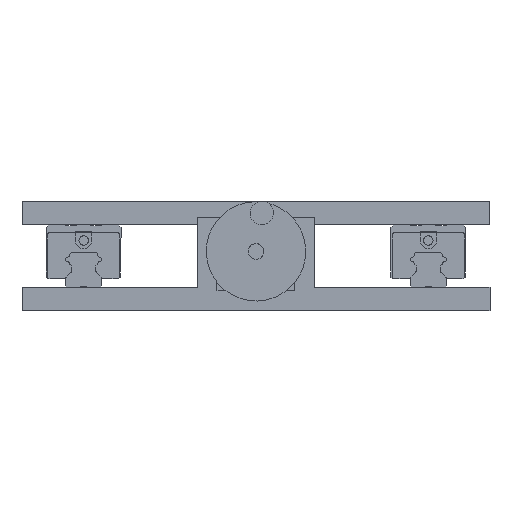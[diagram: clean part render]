
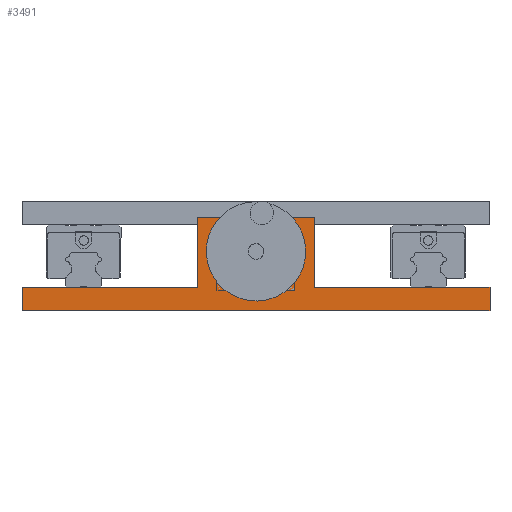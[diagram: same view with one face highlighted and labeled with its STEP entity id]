
A CAD part, front view. The second image highlights one B-rep face of the part: STEP entity #3491.
In plain terms, the highlighted planar face has unit normal (0, -1, 0).
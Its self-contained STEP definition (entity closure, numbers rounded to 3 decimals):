
#246 = CARTESIAN_POINT ( 'NONE',  ( -37.5, -216.5, 60. ) ) ;
#1069 = CARTESIAN_POINT ( 'NONE',  ( 150., -216.5, 15. ) ) ;
#3491 = ADVANCED_FACE ( 'NONE', ( #17109, #36460 ), #60678, .F. ) ;
#4008 = LINE ( 'NONE', #51027, #35980 ) ;
#4264 = ORIENTED_EDGE ( 'NONE', *, *, #21846, .T. ) ;
#4286 = CARTESIAN_POINT ( 'NONE',  ( -37.5, -216.5, 15. ) ) ;
#5604 = LINE ( 'NONE', #41525, #14102 ) ;
#9121 = ORIENTED_EDGE ( 'NONE', *, *, #10790, .F. ) ;
#9523 = CARTESIAN_POINT ( 'NONE',  ( 37.5, -216.5, 60. ) ) ;
#9644 = ORIENTED_EDGE ( 'NONE', *, *, #12556, .T. ) ;
#10790 = EDGE_CURVE ( 'NONE', #67496, #39740, #19558, .T. ) ;
#11771 = CARTESIAN_POINT ( 'NONE',  ( -150., -216.5, 0. ) ) ;
#12147 = DIRECTION ( 'NONE',  ( 0., 0., -1. ) ) ;
#12480 = ORIENTED_EDGE ( 'NONE', *, *, #62061, .F. ) ;
#12556 = EDGE_CURVE ( 'NONE', #28158, #58298, #5604, .T. ) ;
#14102 = VECTOR ( 'NONE', #52317, 1000. ) ;
#15028 = VERTEX_POINT ( 'NONE', #23058 ) ;
#15551 = AXIS2_PLACEMENT_3D ( 'NONE', #66927, #29278, #67385 ) ;
#15586 = CIRCLE ( 'NONE', #25848, 5. ) ;
#16590 = DIRECTION ( 'NONE',  ( 0., 0., 1. ) ) ;
#17109 = FACE_BOUND ( 'NONE', #54471, .T. ) ;
#17388 = ORIENTED_EDGE ( 'NONE', *, *, #24498, .F. ) ;
#19034 = CARTESIAN_POINT ( 'NONE',  ( -150., -216.5, 15. ) ) ;
#19558 = LINE ( 'NONE', #39671, #38928 ) ;
#21846 = EDGE_CURVE ( 'NONE', #39498, #61584, #28350, .T. ) ;
#22579 = VECTOR ( 'NONE', #12147, 1000. ) ;
#23058 = CARTESIAN_POINT ( 'NONE',  ( 150., -216.5, 0. ) ) ;
#24498 = EDGE_CURVE ( 'NONE', #39803, #66917, #15586, .T. ) ;
#25848 = AXIS2_PLACEMENT_3D ( 'NONE', #54698, #26668, #16590 ) ;
#26263 = EDGE_CURVE ( 'NONE', #39740, #15028, #68897, .T. ) ;
#26668 = DIRECTION ( 'NONE',  ( 0., -1., 0. ) ) ;
#26788 = CIRCLE ( 'NONE', #15551, 5. ) ;
#27902 = EDGE_CURVE ( 'NONE', #64915, #67496, #42261, .T. ) ;
#27962 = CARTESIAN_POINT ( 'NONE',  ( 37.5, -216.5, 15. ) ) ;
#28158 = VERTEX_POINT ( 'NONE', #35078 ) ;
#28350 = LINE ( 'NONE', #64898, #37569 ) ;
#28691 = CARTESIAN_POINT ( 'NONE',  ( -150., -216.5, 15. ) ) ;
#29278 = DIRECTION ( 'NONE',  ( 0., -1., 0. ) ) ;
#31330 = VECTOR ( 'NONE', #31610, 1000. ) ;
#31610 = DIRECTION ( 'NONE',  ( 0., 0., -1. ) ) ;
#33506 = CARTESIAN_POINT ( 'NONE',  ( 0., -216.5, 33. ) ) ;
#33750 = ORIENTED_EDGE ( 'NONE', *, *, #27902, .F. ) ;
#35078 = CARTESIAN_POINT ( 'NONE',  ( -37.5, -216.5, 60. ) ) ;
#35980 = VECTOR ( 'NONE', #39718, 1000. ) ;
#36460 = FACE_OUTER_BOUND ( 'NONE', #61143, .T. ) ;
#37569 = VECTOR ( 'NONE', #43710, 1000. ) ;
#38395 = ORIENTED_EDGE ( 'NONE', *, *, #55173, .F. ) ;
#38928 = VECTOR ( 'NONE', #55659, 1000. ) ;
#39498 = VERTEX_POINT ( 'NONE', #19034 ) ;
#39671 = CARTESIAN_POINT ( 'NONE',  ( -150., -216.5, 15. ) ) ;
#39718 = DIRECTION ( 'NONE',  ( 1., 0., 0. ) ) ;
#39740 = VERTEX_POINT ( 'NONE', #69115 ) ;
#39803 = VERTEX_POINT ( 'NONE', #69349 ) ;
#41010 = LINE ( 'NONE', #246, #68720 ) ;
#41525 = CARTESIAN_POINT ( 'NONE',  ( -37.5, -216.5, 60. ) ) ;
#41790 = LINE ( 'NONE', #11771, #60346 ) ;
#42261 = LINE ( 'NONE', #9523, #31330 ) ;
#43261 = DIRECTION ( 'NONE',  ( 1., 0., 0. ) ) ;
#43500 = DIRECTION ( 'NONE',  ( 1., 0., 0. ) ) ;
#43710 = DIRECTION ( 'NONE',  ( 0., 0., -1. ) ) ;
#44698 = DIRECTION ( 'NONE',  ( 0., 1., 0. ) ) ;
#47980 = CARTESIAN_POINT ( 'NONE',  ( 37.5, -216.5, 60. ) ) ;
#50138 = DIRECTION ( 'NONE',  ( 0., 0., 1. ) ) ;
#51027 = CARTESIAN_POINT ( 'NONE',  ( -150., -216.5, 15. ) ) ;
#51332 = ORIENTED_EDGE ( 'NONE', *, *, #26263, .F. ) ;
#51365 = EDGE_CURVE ( 'NONE', #39498, #58298, #4008, .T. ) ;
#51708 = AXIS2_PLACEMENT_3D ( 'NONE', #28691, #44698, #50138 ) ;
#52317 = DIRECTION ( 'NONE',  ( 0., 0., -1. ) ) ;
#54471 = EDGE_LOOP ( 'NONE', ( #17388, #38395 ) ) ;
#54698 = CARTESIAN_POINT ( 'NONE',  ( 0., -216.5, 38. ) ) ;
#55173 = EDGE_CURVE ( 'NONE', #66917, #39803, #26788, .T. ) ;
#55659 = DIRECTION ( 'NONE',  ( 1., 0., 0. ) ) ;
#57547 = ORIENTED_EDGE ( 'NONE', *, *, #51365, .F. ) ;
#58298 = VERTEX_POINT ( 'NONE', #4286 ) ;
#60346 = VECTOR ( 'NONE', #43500, 1000. ) ;
#60678 = PLANE ( 'NONE',  #51708 ) ;
#61143 = EDGE_LOOP ( 'NONE', ( #69545, #51332, #9121, #33750, #12480, #9644, #57547, #4264 ) ) ;
#61209 = CARTESIAN_POINT ( 'NONE',  ( -150., -216.5, 0. ) ) ;
#61584 = VERTEX_POINT ( 'NONE', #61209 ) ;
#62055 = EDGE_CURVE ( 'NONE', #61584, #15028, #41790, .T. ) ;
#62061 = EDGE_CURVE ( 'NONE', #28158, #64915, #41010, .T. ) ;
#64898 = CARTESIAN_POINT ( 'NONE',  ( -150., -216.5, 15. ) ) ;
#64915 = VERTEX_POINT ( 'NONE', #47980 ) ;
#66917 = VERTEX_POINT ( 'NONE', #33506 ) ;
#66927 = CARTESIAN_POINT ( 'NONE',  ( 0., -216.5, 38. ) ) ;
#67385 = DIRECTION ( 'NONE',  ( 0., 0., 1. ) ) ;
#67496 = VERTEX_POINT ( 'NONE', #27962 ) ;
#68720 = VECTOR ( 'NONE', #43261, 1000. ) ;
#68897 = LINE ( 'NONE', #1069, #22579 ) ;
#69115 = CARTESIAN_POINT ( 'NONE',  ( 150., -216.5, 15. ) ) ;
#69349 = CARTESIAN_POINT ( 'NONE',  ( 0., -216.5, 43. ) ) ;
#69545 = ORIENTED_EDGE ( 'NONE', *, *, #62055, .T. ) ;
